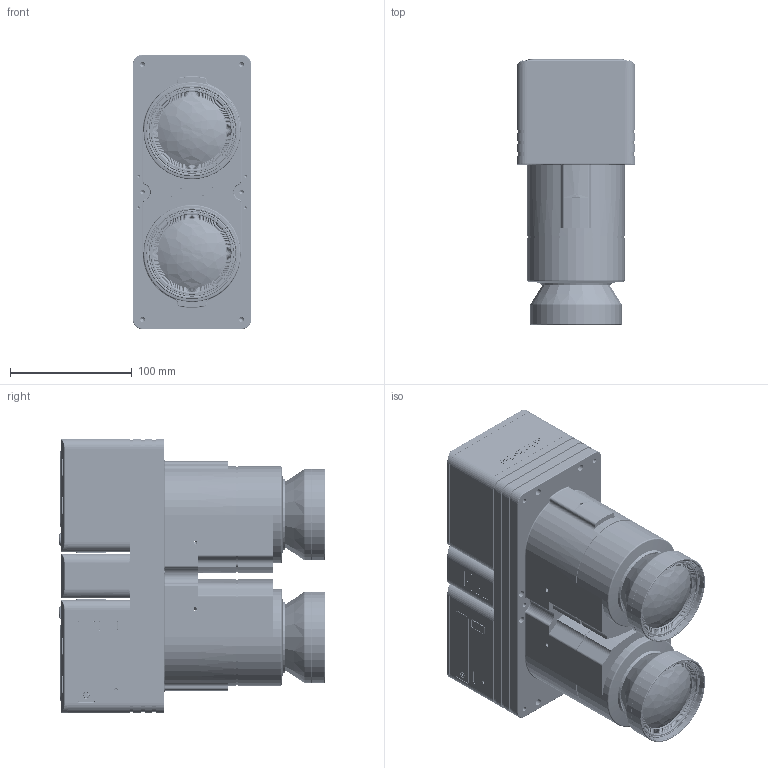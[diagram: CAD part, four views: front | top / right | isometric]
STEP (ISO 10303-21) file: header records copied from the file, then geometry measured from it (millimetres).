
FILE_DESCRIPTION (( 'STEP AP203' ), '1' );
FILE_NAME ('CAMERA ASSEMBLY-190MP.STEP', '2017-09-26T12:41:59', ( '' ), ( '' ), 'SwSTEP 2.0', 'SolidWorks 2017', '' );
FILE_SCHEMA (( 'CONFIG_CONTROL_DESIGN' ));
Length unit declared in the file: millimetre
Products named in the file (72): newnewnew0900-X-00-00-00-00-11-0_0900-2-15-20-75-14-11-0new-15-1; LABEL-1; newnewnew0900-X-00-00-00-00-11-0_0900-2-15-20-75-14-11-0new-5-1; lens 90 for 190 mp with light cone; 40103000-COPYii-1; 40103733; new1941-X_1941-0-00-15-00-00-03-0.-1new-1-1; newP4XX-21-010-00-000000_P410-21-010-00-000000.-1new-1; 20100748(Default); iXU-RS with 90mm lens for 190MP 7-2-17; 50100757-1; BODY & SENSOR ASSEMBLY-ver2-1; newP419-10-210-30-041000-1.-1new-1-1; BODY& COVER-ver2-1; iXU camera-empty-model-1; newnewnewP813-22-010-30-002101new-1-1-1; newnewnew0900-X-00-00-00-00-11-0_0900-2-15-20-75-14-11-0new-19-1; newnewnew0900-X-00-00-00-00-11-0_0900-2-15-20-75-14-11-0new-11-1-1; newnewnew0900-X-00-00-00-00-11-0_0900-2-15-20-75-14-11-0new-8-1-1; newnewnew0900-X-00-00-00-00-11-0_0900-2-15-20-75-14-11-0new-13-1; newnewnew0900-X-00-00-00-00-11-0_0900-2-15-20-75-14-11-0new-9-1; newnewnew0900-X-00-00-00-00-11-0_0900-2-15-20-75-14-11-0new-14-1; newnewnew0900-X-00-00-00-00-11-0_0900-2-15-20-75-14-11-0new-18-1-1; newnewnew0900-X-00-00-00-00-11-0_0900-2-15-20-75-14-11-0new-7-1; newnewnew0900-X-00-00-00-00-11-0_0900-2-15-20-75-14-11-0new-10-1-1; iXU camera-empty; newnewnew0953-X_0953-1-38-20-00-00-13-0new-1-1; newnewnewP813-22-010-30-002101new-1-1; iXU camera-empty-model; newnewnew0900-X-00-00-00-00-11-0_0900-2-15-20-75-14-11-0new-12-1-1; 40103735; newnewnew0900-X-00-00-00-00-11-0_0900-2-15-20-75-14-11-0new-2-1; newnewnew0900-X-00-00-00-00-11-0_0900-2-15-20-75-14-11-0new-6-1-1; newnewnew0900-X-00-00-00-00-11-0_0900-2-15-20-75-14-11-0new-9-1-1; newnewnew0900-X-00-00-00-00-11-0_0900-2-15-20-75-14-11-0new-4-1; newnewnew0900-X-00-00-00-00-11-0_0900-2-15-20-75-14-11-0new-12-1; 40103002-copy-1; newnewnew0900-X-00-00-00-00-11-0_0900-2-15-20-75-14-11-0new-17-1-1; newP419-10-210-30-041000-1.-1new-1; newnewnew0900-X-00-00-00-00-11-0_0900-2-15-20-75-14-11-0new-5-1-1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
Assembly tree (254 placements, depth 7):
  CAMERA ASSEMBLY-190MP
    BODY & SENSOR ASSEMBLY-ver2-1
      BODY& COVER-ver2-1
        50100757
          newnewnewP813-22-010-30-002101new-2
            newnewnew0900-X-00-00-00-00-11-0_0900-2-15-20-75-14-11-0new-20
              newnewnew0960-X_0960-0-00-20-00-00-13-0new-1-1
              newnewnew0953-X_0953-1-38-20-00-00-13-0new-1-1
              newnewnew0918-X_0918-2-00-20-00-00-13-0new-1-1
              newnewnew6875-0-00-00-75-XX-43-0C_6875-0-00-00-75-14-43-0new-1-1
            newnewnew0900-X-00-00-00-00-11-0_0900-2-15-20-75-14-11-0new-1-1
              newnewnew0960-X_0960-0-00-20-00-00-13-0new-1-1
              newnewnew0953-X_0953-1-38-20-00-00-13-0new-1-1
              newnewnew0918-X_0918-2-00-20-00-00-13-0new-1-1
              newnewnew6875-0-00-00-75-XX-43-0C_6875-0-00-00-75-14-43-0new-1-1
            newnewnew0900-X-00-00-00-00-11-0_0900-2-15-20-75-14-11-0new-2-1
              newnewnew0960-X_0960-0-00-20-00-00-13-0new-1-1
              newnewnew0953-X_0953-1-38-20-00-00-13-0new-1-1
              newnewnew0918-X_0918-2-00-20-00-00-13-0new-1-1
              newnewnew6875-0-00-00-75-XX-43-0C_6875-0-00-00-75-14-43-0new-1-1
            newnewnew0900-X-00-00-00-00-11-0_0900-2-15-20-75-14-11-0new-3-1
              newnewnew0960-X_0960-0-00-20-00-00-13-0new-1-1
              newnewnew0953-X_0953-1-38-20-00-00-13-0new-1-1
              newnewnew0918-X_0918-2-00-20-00-00-13-0new-1-1
              newnewnew6875-0-00-00-75-XX-43-0C_6875-0-00-00-75-14-43-0new-1-1
            newnewnew0900-X-00-00-00-00-11-0_0900-2-15-20-75-14-11-0new-4-1
              newnewnew0960-X_0960-0-00-20-00-00-13-0new-1-1
              newnewnew0953-X_0953-1-38-20-00-00-13-0new-1-1
              newnewnew0918-X_0918-2-00-20-00-00-13-0new-1-1
              newnewnew6875-0-00-00-75-XX-43-0C_6875-0-00-00-75-14-43-0new-1-1
            newnewnew0900-X-00-00-00-00-11-0_0900-2-15-20-75-14-11-0new-5-1
              newnewnew0960-X_0960-0-00-20-00-00-13-0new-1-1
              newnewnew0953-X_0953-1-38-20-00-00-13-0new-1-1
              newnewnew0918-X_0918-2-00-20-00-00-13-0new-1-1
              newnewnew6875-0-00-00-75-XX-43-0C_6875-0-00-00-75-14-43-0new-1-1
            newnewnew0900-X-00-00-00-00-11-0_0900-2-15-20-75-14-11-0new-6-1
              newnewnew0960-X_0960-0-00-20-00-00-13-0new-1-1
              newnewnew0953-X_0953-1-38-20-00-00-13-0new-1-1
              newnewnew0918-X_0918-2-00-20-00-00-13-0new-1-1
              newnewnew6875-0-00-00-75-XX-43-0C_6875-0-00-00-75-14-43-0new-1-1
            newnewnew0900-X-00-00-00-00-11-0_0900-2-15-20-75-14-11-0new-7-1
              newnewnew0960-X_0960-0-00-20-00-00-13-0new-1-1
              newnewnew0953-X_0953-1-38-20-00-00-13-0new-1-1
              newnewnew0918-X_0918-2-00-20-00-00-13-0new-1-1
              newnewnew6875-0-00-00-75-XX-43-0C_6875-0-00-00-75-14-43-0new-1-1
            newnewnew0900-X-00-00-00-00-11-0_0900-2-15-20-75-14-11-0new-8-1
              newnewnew0960-X_0960-0-00-20-00-00-13-0new-1-1
              newnewnew0953-X_0953-1-38-20-00-00-13-0new-1-1
              newnewnew0918-X_0918-2-00-20-00-00-13-0new-1-1
              newnewnew6875-0-00-00-75-XX-43-0C_6875-0-00-00-75-14-43-0new-1-1
            newnewnew0900-X-00-00-00-00-11-0_0900-2-15-20-75-14-11-0new-9-1
              newnewnew0960-X_0960-0-00-20-00-00-13-0new-1-1
              newnewnew0953-X_0953-1-38-20-00-00-13-0new-1-1
              newnewnew0918-X_0918-2-00-20-00-00-13-0new-1-1
              newnewnew6875-0-00-00-75-XX-43-0C_6875-0-00-00-75-14-43-0new-1-1
            newnewnewP4XX-28-010-00-090000_P410-28-010-00-090000new-1-1
          newnewnewP813-22-010-30-002101new-1-1
            newnewnew0900-X-00-00-00-00-11-0_0900-2-15-20-75-14-11-0new-10-1
              newnewnew0960-X_0960-0-00-20-00-00-13-0new-1-1
              newnewnew0953-X_0953-1-38-20-00-00-13-0new-1-1
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Bounding box: 97.7 x 218.7 x 225.6 mm (x, y, z)
Volume: 513659.2 mm3; surface area: 598975.9 mm2
Topology: 196 solids, 348 shells, 8205 faces, 21306 edges, 13722 vertices
Faces by surface type: cylinder 3398, plane 2574, cone 1420, bspline 612, torus 165, sphere 36
Entity records: 150705 total; most frequent: CARTESIAN_POINT 37577, DIRECTION 21930, ORIENTED_EDGE 20204, EDGE_CURVE 10519, AXIS2_PLACEMENT_3D 8199, VERTEX_POINT 7028, LINE 5532, VECTOR 5532
